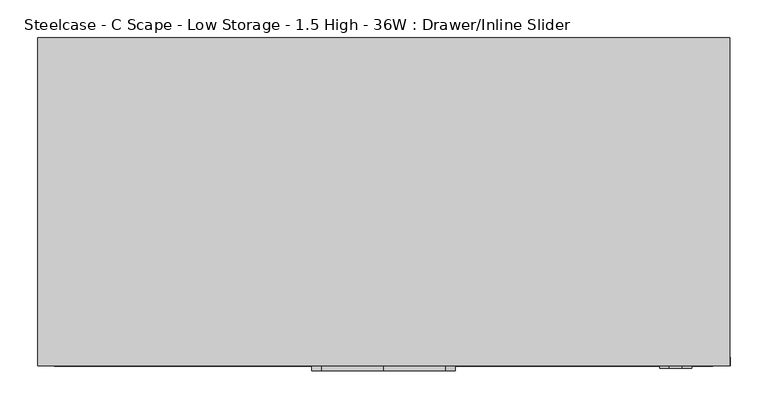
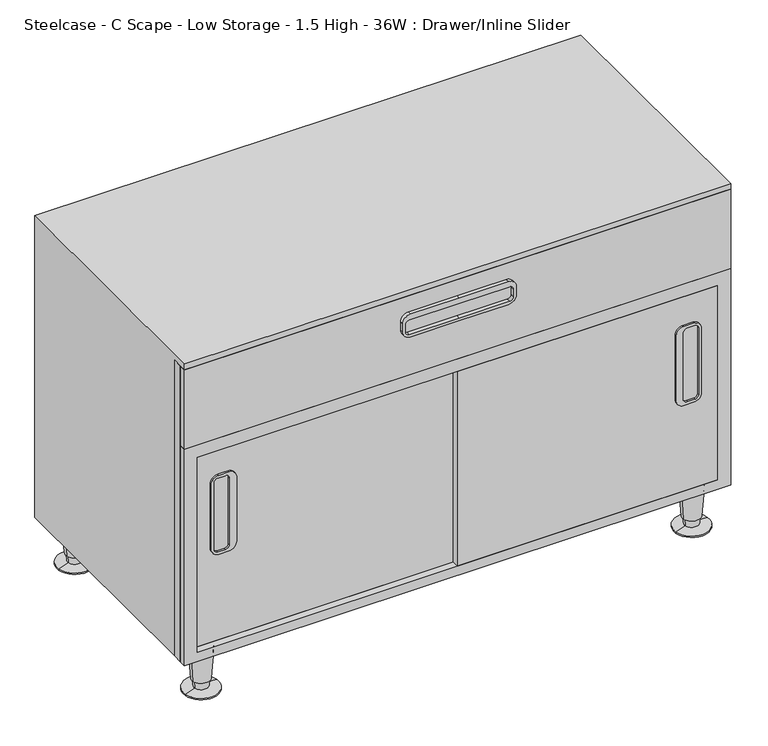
"""IFC4 building model written with IfcOpenShell, lengths in millimetres: furniture geometry, Steelcase - C Scape - Low Storage - 1.5 High - 36W : Drawer/Inline Slider."""

from ifc_helpers import new_model, si_unit, point, frame, frame_2d, origin, place, context, project, spatial, polyline, circle_curve, trimmed, segment, composite_curve, outline, extrude, faceted_brep, source, transform, mapped, element, save
from ifc_brep_helpers import plane_surface, cylinder_surface, revolved_surface, advanced_brep


def steelcase_c_scape_low_storage_1_5_high_36w_drawer_inline_6c725473(model_context):
    return source(origin(), model_context, "Body", "SolidModel", [
        extrude(outline(composite_curve([segment(trimmed(circle_curve(frame_2d((373.5963095, 833.2465039)), 12.7015503), [point((386.2978598, 833.2465039))], [point((373.5963095, 820.5449536))], False, "CARTESIAN"), True, "CONTINUOUS"), segment(polyline([(373.5963095, 820.5449536), (259.2993979, 820.5449536)]), True, "CONTINUOUS"), segment(trimmed(circle_curve(frame_2d((259.2993979, 833.2465039)), 12.7015503), [point((259.2993979, 820.5449536))], [point((246.5978477, 833.2465039))], False, "CARTESIAN"), True, "CONTINUOUS"), segment(polyline([(246.5978477, 833.2465039), (246.5978477, 850.1353895)]), True, "CONTINUOUS"), segment(trimmed(circle_curve(frame_2d((259.2978537, 850.1353895)), 12.7000061), [point((246.5978477, 850.1353895))], [point((259.2978537, 862.8353955))], False, "CARTESIAN"), True, "CONTINUOUS"), segment(polyline([(259.2978537, 862.8353955), (373.6009603, 862.8353955)]), True, "CONTINUOUS"), segment(trimmed(circle_curve(frame_2d((373.6009603, 850.1384961)), 12.6968994), [point((373.6009603, 862.8353955))], [point((386.2978598, 850.1384961))], False, "CARTESIAN"), True, "CONTINUOUS"), segment(polyline([(386.2978598, 850.1384961), (386.2978598, 833.2465039)]), True, "CONTINUOUS")], self_intersect=False), holes=[composite_curve([segment(trimmed(circle_curve(frame_2d((257.7496016, 851.6593335)), 6.3531006), [point((257.7496016, 858.0124341))], [point((251.396501, 851.6593335))], True, "CARTESIAN"), True, "CONTINUOUS"), segment(polyline([(251.396501, 851.6593335), (251.396501, 838.9624341)]), True, "CONTINUOUS"), segment(trimmed(circle_curve(frame_2d((257.7496016, 838.9624341)), 6.3531006), [point((251.396501, 838.9624341))], [point((257.7496016, 832.6093335))], True, "CARTESIAN"), True, "CONTINUOUS"), segment(polyline([(257.7496016, 832.6093335), (375.0913854, 832.6093335)]), True, "CONTINUOUS"), segment(trimmed(circle_curve(frame_2d((375.0913854, 838.9624341)), 6.3531006), [point((375.0913854, 832.6093335))], [point((381.444486, 838.9624341))], True, "CARTESIAN"), True, "CONTINUOUS"), segment(polyline([(381.444486, 838.9624341), (381.444486, 851.6593335)]), True, "CONTINUOUS"), segment(trimmed(circle_curve(frame_2d((375.0913854, 851.6593335)), 6.3531006), [point((381.444486, 851.6593335))], [point((375.0913854, 858.0124341))], True, "CARTESIAN"), True, "CONTINUOUS"), segment(polyline([(375.0913854, 858.0124341), (257.7496016, 858.0124341)]), True, "CONTINUOUS")], self_intersect=False)]), frame((0.0, -436.1182586, 0.0), z_axis=(0.0, 1.0, 0.0), x_axis=(0.0, 0.0, 1.0)), (0.0, 0.0, 1.0), 3.0482586),
        extrude(outline(composite_curve([segment(polyline([(386.2978598, 79.2484961), (386.2978598, 62.3565039)]), True, "CONTINUOUS"), segment(trimmed(circle_curve(frame_2d((373.6009603, 62.3565039)), 12.6968994), [point((386.2978598, 62.3565039))], [point((373.6009603, 49.6596045))], False, "CARTESIAN"), True, "CONTINUOUS"), segment(polyline([(373.6009603, 49.6596045), (259.2978537, 49.6596045)]), True, "CONTINUOUS"), segment(trimmed(circle_curve(frame_2d((259.2978537, 62.3596105)), 12.7000061), [point((259.2978537, 49.6596045))], [point((246.5978477, 62.3596105))], False, "CARTESIAN"), True, "CONTINUOUS"), segment(polyline([(246.5978477, 62.3596105), (246.5978477, 79.2484961)]), True, "CONTINUOUS"), segment(trimmed(circle_curve(frame_2d((259.2993979, 79.2484961)), 12.7015503), [point((246.5978477, 79.2484961))], [point((259.2993979, 91.9500464))], False, "CARTESIAN"), True, "CONTINUOUS"), segment(polyline([(259.2993979, 91.9500464), (373.5963095, 91.9500464)]), True, "CONTINUOUS"), segment(trimmed(circle_curve(frame_2d((373.5963095, 79.2484961)), 12.7015503), [point((373.5963095, 91.9500464))], [point((386.2978598, 79.2484961))], False, "CARTESIAN"), True, "CONTINUOUS")], self_intersect=False), holes=[composite_curve([segment(polyline([(257.7496016, 54.4825659), (375.0913854, 54.4825659)]), True, "CONTINUOUS"), segment(trimmed(circle_curve(frame_2d((375.0913854, 60.8356665)), 6.3531006), [point((375.0913854, 54.4825659))], [point((381.444486, 60.8356665))], True, "CARTESIAN"), True, "CONTINUOUS"), segment(polyline([(381.444486, 60.8356665), (381.444486, 73.5325659)]), True, "CONTINUOUS"), segment(trimmed(circle_curve(frame_2d((375.0913854, 73.5325659)), 6.3531006), [point((381.444486, 73.5325659))], [point((375.0913854, 79.8856665))], True, "CARTESIAN"), True, "CONTINUOUS"), segment(polyline([(375.0913854, 79.8856665), (257.7496016, 79.8856665)]), True, "CONTINUOUS"), segment(trimmed(circle_curve(frame_2d((257.7496016, 73.5325659)), 6.3531006), [point((257.7496016, 79.8856665))], [point((251.396501, 73.5325659))], True, "CARTESIAN"), True, "CONTINUOUS"), segment(polyline([(251.396501, 73.5325659), (251.396501, 60.8356665)]), True, "CONTINUOUS"), segment(trimmed(circle_curve(frame_2d((257.7496016, 60.8356665)), 6.3531006), [point((251.396501, 60.8356665))], [point((257.7496016, 54.4825659))], True, "CARTESIAN"), True, "CONTINUOUS")], self_intersect=False)]), frame((0.0, -424.7213475, 0.0), z_axis=(0.0, 1.0, 0.0), x_axis=(0.0, 0.0, 1.0)), (0.0, 0.0, 1.0), 3.0770066),
        extrude(outline(polyline([(458.7875121, 913.765), (458.7875121, 0.0), (76.2, 0.0), (76.2, 913.765), (458.7875121, 913.765)]), holes=[polyline([(436.8419, 891.1617285), (92.7100024, 891.1617285), (92.7100024, 21.3382324), (436.8419, 21.3382324), (436.8419, 891.1617285)])]), frame((0.0, -433.07, 0.0), z_axis=(0.0, 1.0, 0.0), x_axis=(0.0, 0.0, 1.0)), (0.0, 0.0, 1.0), 11.4256592),
        extrude(outline(polyline([(76.2, 0.0), (76.2, 913.13), (599.44, 913.13), (599.44, 0.0), (76.2, 0.0)]), holes=[polyline([(458.7875121, 891.1617285), (458.7875121, 21.3382324), (582.93, 21.3382324), (582.93, 891.1617285), (458.7875121, 891.1617285)]), polyline([(92.7100024, 891.1617285), (92.7100024, 21.3382324), (436.8419, 21.3382324), (436.8419, 891.1617285), (92.7100024, 891.1617285)])]), frame((0.0, -421.6443408, 0.0), z_axis=(0.0, 1.0, 0.0), x_axis=(0.0, 0.0, 1.0)), (0.0, 0.0, 1.0), 17.2762904),
        extrude(outline(composite_curve([segment(trimmed(circle_curve(frame_2d((558.165, 374.0147442)), 12.7), [point((570.865, 374.0147442))], [point((558.165, 361.3147442))], False, "CARTESIAN"), True, "CONTINUOUS"), segment(polyline([(558.165, 361.3147442), (543.5600291, 361.3147442)]), True, "CONTINUOUS"), segment(trimmed(circle_curve(frame_2d((543.5600291, 374.0147442)), 12.7), [point((543.5600291, 361.3147442))], [point((530.8600291, 374.0147442))], False, "CARTESIAN"), True, "CONTINUOUS"), segment(polyline([(530.8600291, 374.0147442), (530.8600291, 456.2475), (530.8600291, 538.4802558)]), True, "CONTINUOUS"), segment(trimmed(circle_curve(frame_2d((543.5600291, 538.4802558)), 12.7), [point((530.8600291, 538.4802558))], [point((543.5600291, 551.1802558))], False, "CARTESIAN"), True, "CONTINUOUS"), segment(polyline([(543.5600291, 551.1802558), (558.165, 551.1802558)]), True, "CONTINUOUS"), segment(trimmed(circle_curve(frame_2d((558.165, 538.4802558)), 12.7), [point((558.165, 551.1802558))], [point((570.865, 538.4802558))], False, "CARTESIAN"), True, "CONTINUOUS"), segment(polyline([(570.865, 538.4802558), (570.865, 456.2475), (570.865, 374.0147442)]), True, "CONTINUOUS")], self_intersect=False), holes=[composite_curve([segment(trimmed(circle_curve(frame_2d((554.7360184, 372.4923565)), 6.35), [point((554.7360184, 366.1423565))], [point((561.0860184, 372.4923565))], True, "CARTESIAN"), True, "CONTINUOUS"), segment(polyline([(561.0860184, 372.4923565), (561.0860184, 456.2475), (561.0860184, 540.0026435)]), True, "CONTINUOUS"), segment(trimmed(circle_curve(frame_2d((554.7360184, 540.0026435)), 6.35), [point((561.0860184, 540.0026435))], [point((554.7360184, 546.3526435))], True, "CARTESIAN"), True, "CONTINUOUS"), segment(polyline([(554.7360184, 546.3526435), (542.0360063, 546.3526435)]), True, "CONTINUOUS"), segment(trimmed(circle_curve(frame_2d((542.0360063, 540.0026435)), 6.35), [point((542.0360063, 546.3526435))], [point((535.6860063, 540.0026435))], True, "CARTESIAN"), True, "CONTINUOUS"), segment(polyline([(535.6860063, 540.0026435), (535.6860063, 456.2475), (535.6860063, 372.4923565)]), True, "CONTINUOUS"), segment(trimmed(circle_curve(frame_2d((542.0360063, 372.4923565)), 6.35), [point((535.6860063, 372.4923565))], [point((542.0360063, 366.1423565))], True, "CARTESIAN"), True, "CONTINUOUS"), segment(polyline([(542.0360063, 366.1423565), (554.7360184, 366.1423565)]), True, "CONTINUOUS")], self_intersect=False)]), frame((0.0, -439.42, 0.0), z_axis=(0.0, 1.0, 0.0), x_axis=(0.0, 0.0, 1.0)), (0.0, 0.0, 1.0), 6.35),
        advanced_brep(
        [(885.8598695, -31.5218435, 76.2), (848.1981305, -37.2840847, 76.2), (867.029, -34.4029641, 76.2), (881.9095214, -32.1262463, 19.05), (852.1484786, -36.6796819, 19.05), (879.4799345, -32.4979728, 19.05), (854.5780655, -36.3079555, 19.05), (878.791165, -32.6033544, 5.7545598), (855.266835, -36.2025738, 5.7545598), (896.1400485, -29.9489775, 2.5119506), (837.9179515, -38.8569507, 2.5119506), (896.1400485, -29.9489775, 0.0), (837.9179515, -38.8569507, 0.0), (867.029, -34.4029641, 0.0)],
        [
            (0, 1, circle_curve(frame((867.029, -34.4029641, 76.2), z_axis=(0.0, 0.0, 1.0), x_axis=(0.0, -1.0, 0.0)), 19.05)),
            (1, 2),
            (2, 0),
            (1, 0, circle_curve(frame((867.029, -34.4029641, 76.2), z_axis=(0.0, 0.0, 1.0), x_axis=(0.0, -1.0, 0.0)), 19.05)),
            (3, 4, circle_curve(frame((867.029, -34.4029641, 19.05), z_axis=(0.0, 0.0, 1.0), x_axis=(0.0, -1.0, 0.0)), 15.0536827)),
            (4, 1),
            (0, 3),
            (4, 3, circle_curve(frame((867.029, -34.4029641, 19.05), z_axis=(0.0, 0.0, 1.0), x_axis=(0.0, -1.0, 0.0)), 15.0536827)),
            (5, 6, circle_curve(frame((867.029, -34.4029641, 19.05), z_axis=(0.0, 0.0, 1.0), x_axis=(0.0, -1.0, 0.0)), 12.5958232)),
            (6, 4),
            (3, 5),
            (6, 5, circle_curve(frame((867.029, -34.4029641, 19.05), z_axis=(0.0, 0.0, 1.0), x_axis=(0.0, -1.0, 0.0)), 12.5958232)),
            (7, 8, circle_curve(frame((867.029, -34.4029641, 5.7545598), z_axis=(0.0, 0.0, 1.0), x_axis=(0.0, -1.0, 0.0)), 11.8990387)),
            (8, 6),
            (5, 7),
            (8, 7, circle_curve(frame((867.029, -34.4029641, 5.7545598), z_axis=(0.0, 0.0, 1.0), x_axis=(0.0, -1.0, 0.0)), 11.8990387)),
            (9, 10, circle_curve(frame((867.029, -34.4029641, 2.5119506), z_axis=(0.0, 0.0, 1.0), x_axis=(0.0, -1.0, 0.0)), 29.4498071)),
            (10, 8),
            (7, 9),
            (10, 9, circle_curve(frame((867.029, -34.4029641, 2.5119506), z_axis=(0.0, 0.0, 1.0), x_axis=(0.0, -1.0, 0.0)), 29.4498071)),
            (11, 12, circle_curve(frame((867.029, -34.4029641, 0.0), z_axis=(0.0, 0.0, 1.0), x_axis=(0.0, -1.0, 0.0)), 29.4498071)),
            (12, 10),
            (9, 11),
            (12, 11, circle_curve(frame((867.029, -34.4029641, 0.0), z_axis=(0.0, 0.0, 1.0), x_axis=(0.0, -1.0, 0.0)), 29.4498071)),
            (13, 12),
            (11, 13),
        ],
        [
            plane_surface(frame((867.029, -34.4029641, 76.2), z_axis=(0.0, 0.0, 1.0), x_axis=(0.0, -1.0, 0.0))),
            revolved_surface(polyline([(867.029, -53.4529641, 76.2), (867.029, -49.4566468, 19.05)]), (867.029, -34.4029641, 25.4), (0.0, 0.0, -1.0)),
            plane_surface(frame((867.029, -34.4029641, 19.05), z_axis=(0.0, 0.0, -1.0), x_axis=(0.0, -1.0, 0.0))),
            revolved_surface(polyline([(867.029, -46.9987873, 19.05), (867.029, -46.3020028, 5.7545598)]), (867.029, -34.4029641, 25.4), (0.0, 0.0, -1.0)),
            revolved_surface(polyline([(867.029, -46.3020028, 5.7545598), (867.029, -63.8527712, 2.5119506)]), (867.029, -34.4029641, 25.4), (0.0, 0.0, -1.0)),
            cylinder_surface(frame((867.029, -34.4029641, 25.4), z_axis=(0.0, 0.0, -1.0), x_axis=(0.0, -1.0, 0.0)), 29.4498071),
            plane_surface(frame((867.029, -34.4029641, 0.0), z_axis=(0.0, 0.0, -1.0), x_axis=(0.0, -1.0, 0.0))),
        ],
        [
            (0, [[1, 2, 3]]),
            (0, [[4, -3, -2]]),
            (1, [[5, 6, -1, 7]]),
            (1, [[8, -7, -4, -6]]),
            (2, [[9, 10, -5, 11]]),
            (2, [[12, -11, -8, -10]]),
            (3, [[13, 14, -9, 15]]),
            (3, [[16, -15, -12, -14]]),
            (4, [[17, 18, -13, 19]]),
            (4, [[20, -19, -16, -18]]),
            (5, [[21, 22, -17, 23]]),
            (5, [[24, -23, -20, -22]]),
            (6, [[25, -21, 26]]),
            (6, [[-26, -24, -25]]),
        ],
    ),
        advanced_brep(
        [(885.8598695, -397.1702762, 76.2), (848.1981305, -402.9325174, 76.2), (867.029, -400.0513968, 76.2), (881.9095214, -397.774679, 19.05), (852.1484786, -402.3281146, 19.05), (879.4799345, -398.1464055, 19.05), (854.5780655, -401.9563882, 19.05), (878.791165, -398.2517871, 5.7545598), (855.266835, -401.8510065, 5.7545598), (896.1400485, -395.5974102, 2.5119506), (837.9179515, -404.5053834, 2.5119506), (896.1400485, -395.5974102, 0.0), (837.9179515, -404.5053834, 0.0), (867.029, -400.0513968, 0.0)],
        [
            (0, 1, circle_curve(frame((867.029, -400.0513968, 76.2), z_axis=(0.0, 0.0, 1.0), x_axis=(0.0, -1.0, 0.0)), 19.05)),
            (1, 2),
            (2, 0),
            (1, 0, circle_curve(frame((867.029, -400.0513968, 76.2), z_axis=(0.0, 0.0, 1.0), x_axis=(0.0, -1.0, 0.0)), 19.05)),
            (3, 4, circle_curve(frame((867.029, -400.0513968, 19.05), z_axis=(0.0, 0.0, 1.0), x_axis=(0.0, -1.0, 0.0)), 15.0536827)),
            (4, 1),
            (0, 3),
            (4, 3, circle_curve(frame((867.029, -400.0513968, 19.05), z_axis=(0.0, 0.0, 1.0), x_axis=(0.0, -1.0, 0.0)), 15.0536827)),
            (5, 6, circle_curve(frame((867.029, -400.0513968, 19.05), z_axis=(0.0, 0.0, 1.0), x_axis=(0.0, -1.0, 0.0)), 12.5958232)),
            (6, 4),
            (3, 5),
            (6, 5, circle_curve(frame((867.029, -400.0513968, 19.05), z_axis=(0.0, 0.0, 1.0), x_axis=(0.0, -1.0, 0.0)), 12.5958232)),
            (7, 8, circle_curve(frame((867.029, -400.0513968, 5.7545598), z_axis=(0.0, 0.0, 1.0), x_axis=(0.0, -1.0, 0.0)), 11.8990387)),
            (8, 6),
            (5, 7),
            (8, 7, circle_curve(frame((867.029, -400.0513968, 5.7545598), z_axis=(0.0, 0.0, 1.0), x_axis=(0.0, -1.0, 0.0)), 11.8990387)),
            (9, 10, circle_curve(frame((867.029, -400.0513968, 2.5119506), z_axis=(0.0, 0.0, 1.0), x_axis=(0.0, -1.0, 0.0)), 29.4498071)),
            (10, 8),
            (7, 9),
            (10, 9, circle_curve(frame((867.029, -400.0513968, 2.5119506), z_axis=(0.0, 0.0, 1.0), x_axis=(0.0, -1.0, 0.0)), 29.4498071)),
            (11, 12, circle_curve(frame((867.029, -400.0513968, 0.0), z_axis=(0.0, 0.0, 1.0), x_axis=(0.0, -1.0, 0.0)), 29.4498071)),
            (12, 10),
            (9, 11),
            (12, 11, circle_curve(frame((867.029, -400.0513968, 0.0), z_axis=(0.0, 0.0, 1.0), x_axis=(0.0, -1.0, 0.0)), 29.4498071)),
            (13, 12),
            (11, 13),
        ],
        [
            plane_surface(frame((867.029, -400.0513968, 76.2), z_axis=(0.0, 0.0, 1.0), x_axis=(0.0, -1.0, 0.0))),
            revolved_surface(polyline([(867.029, -419.1013968, 76.2), (867.029, -415.1050795, 19.05)]), (867.029, -400.0513968, 25.4), (0.0, 0.0, -1.0)),
            plane_surface(frame((867.029, -400.0513968, 19.05), z_axis=(0.0, 0.0, -1.0), x_axis=(0.0, -1.0, 0.0))),
            revolved_surface(polyline([(867.029, -412.64722, 19.05), (867.029, -411.9504355, 5.7545598)]), (867.029, -400.0513968, 25.4), (0.0, 0.0, -1.0)),
            revolved_surface(polyline([(867.029, -411.9504355, 5.7545598), (867.029, -429.5012039, 2.5119506)]), (867.029, -400.0513968, 25.4), (0.0, 0.0, -1.0)),
            cylinder_surface(frame((867.029, -400.0513968, 25.4), z_axis=(0.0, 0.0, -1.0), x_axis=(0.0, -1.0, 0.0)), 29.4498071),
            plane_surface(frame((867.029, -400.0513968, 0.0), z_axis=(0.0, 0.0, -1.0), x_axis=(0.0, -1.0, 0.0))),
        ],
        [
            (0, [[1, 2, 3]]),
            (0, [[4, -3, -2]]),
            (1, [[5, 6, -1, 7]]),
            (1, [[8, -7, -4, -6]]),
            (2, [[9, 10, -5, 11]]),
            (2, [[12, -11, -8, -10]]),
            (3, [[13, 14, -9, 15]]),
            (3, [[16, -15, -12, -14]]),
            (4, [[17, 18, -13, 19]]),
            (4, [[20, -19, -16, -18]]),
            (5, [[21, 22, -17, 23]]),
            (5, [[24, -23, -20, -22]]),
            (6, [[25, -21, 26]]),
            (6, [[-26, -24, -25]]),
        ],
    ),
        advanced_brep(
        [(65.5422821, -397.1702762, 76.2), (27.8805432, -402.9325174, 76.2), (46.7114126, -400.0513968, 76.2), (61.5919341, -397.774679, 19.05), (31.8308912, -402.3281146, 19.05), (59.1623471, -398.1464055, 19.05), (34.2604781, -401.9563882, 19.05), (58.4735776, -398.2517871, 5.7545598), (34.9492476, -401.8510065, 5.7545598), (75.8224611, -395.5974102, 2.5119506), (17.6003641, -404.5053834, 2.5119506), (75.8224611, -395.5974102, 0.0), (17.6003641, -404.5053834, 0.0), (46.7114126, -400.0513968, 0.0)],
        [
            (0, 1, circle_curve(frame((46.7114126, -400.0513968, 76.2), z_axis=(0.0, 0.0, 1.0), x_axis=(0.0, -1.0, 0.0)), 19.05)),
            (1, 2),
            (2, 0),
            (1, 0, circle_curve(frame((46.7114126, -400.0513968, 76.2), z_axis=(0.0, 0.0, 1.0), x_axis=(0.0, -1.0, 0.0)), 19.05)),
            (3, 4, circle_curve(frame((46.7114126, -400.0513968, 19.05), z_axis=(0.0, 0.0, 1.0), x_axis=(0.0, -1.0, 0.0)), 15.0536827)),
            (4, 1),
            (0, 3),
            (4, 3, circle_curve(frame((46.7114126, -400.0513968, 19.05), z_axis=(0.0, 0.0, 1.0), x_axis=(0.0, -1.0, 0.0)), 15.0536827)),
            (5, 6, circle_curve(frame((46.7114126, -400.0513968, 19.05), z_axis=(0.0, 0.0, 1.0), x_axis=(0.0, -1.0, 0.0)), 12.5958232)),
            (6, 4),
            (3, 5),
            (6, 5, circle_curve(frame((46.7114126, -400.0513968, 19.05), z_axis=(0.0, 0.0, 1.0), x_axis=(0.0, -1.0, 0.0)), 12.5958232)),
            (7, 8, circle_curve(frame((46.7114126, -400.0513968, 5.7545598), z_axis=(0.0, 0.0, 1.0), x_axis=(0.0, -1.0, 0.0)), 11.8990387)),
            (8, 6),
            (5, 7),
            (8, 7, circle_curve(frame((46.7114126, -400.0513968, 5.7545598), z_axis=(0.0, 0.0, 1.0), x_axis=(0.0, -1.0, 0.0)), 11.8990387)),
            (9, 10, circle_curve(frame((46.7114126, -400.0513968, 2.5119506), z_axis=(0.0, 0.0, 1.0), x_axis=(0.0, -1.0, 0.0)), 29.4498071)),
            (10, 8),
            (7, 9),
            (10, 9, circle_curve(frame((46.7114126, -400.0513968, 2.5119506), z_axis=(0.0, 0.0, 1.0), x_axis=(0.0, -1.0, 0.0)), 29.4498071)),
            (11, 12, circle_curve(frame((46.7114126, -400.0513968, 0.0), z_axis=(0.0, 0.0, 1.0), x_axis=(0.0, -1.0, 0.0)), 29.4498071)),
            (12, 10),
            (9, 11),
            (12, 11, circle_curve(frame((46.7114126, -400.0513968, 0.0), z_axis=(0.0, 0.0, 1.0), x_axis=(0.0, -1.0, 0.0)), 29.4498071)),
            (13, 12),
            (11, 13),
        ],
        [
            plane_surface(frame((46.7114126, -400.0513968, 76.2), z_axis=(0.0, 0.0, 1.0), x_axis=(0.0, -1.0, 0.0))),
            revolved_surface(polyline([(46.7114126, -419.1013968, 76.2), (46.7114126, -415.1050795, 19.05)]), (46.7114126, -400.0513968, 25.4), (0.0, 0.0, -1.0)),
            plane_surface(frame((46.7114126, -400.0513968, 19.05), z_axis=(0.0, 0.0, -1.0), x_axis=(0.0, -1.0, 0.0))),
            revolved_surface(polyline([(46.7114126, -412.64722, 19.05), (46.7114126, -411.9504355, 5.7545598)]), (46.7114126, -400.0513968, 25.4), (0.0, 0.0, -1.0)),
            revolved_surface(polyline([(46.7114126, -411.9504355, 5.7545598), (46.7114126, -429.5012039, 2.5119506)]), (46.7114126, -400.0513968, 25.4), (0.0, 0.0, -1.0)),
            cylinder_surface(frame((46.7114126, -400.0513968, 25.4), z_axis=(0.0, 0.0, -1.0), x_axis=(0.0, -1.0, 0.0)), 29.4498071),
            plane_surface(frame((46.7114126, -400.0513968, 0.0), z_axis=(0.0, 0.0, -1.0), x_axis=(0.0, -1.0, 0.0))),
        ],
        [
            (0, [[1, 2, 3]]),
            (0, [[4, -3, -2]]),
            (1, [[5, 6, -1, 7]]),
            (1, [[8, -7, -4, -6]]),
            (2, [[9, 10, -5, 11]]),
            (2, [[12, -11, -8, -10]]),
            (3, [[13, 14, -9, 15]]),
            (3, [[16, -15, -12, -14]]),
            (4, [[17, 18, -13, 19]]),
            (4, [[20, -19, -16, -18]]),
            (5, [[21, 22, -17, 23]]),
            (5, [[24, -23, -20, -22]]),
            (6, [[25, -21, 26]]),
            (6, [[-26, -24, -25]]),
        ],
    ),
        advanced_brep(
        [(65.5422821, -31.5218435, 76.2), (27.8805432, -37.2840847, 76.2), (46.7114126, -34.4029641, 76.2), (61.5919341, -32.1262463, 19.05), (31.8308912, -36.6796819, 19.05), (59.1623471, -32.4979728, 19.05), (34.2604781, -36.3079555, 19.05), (58.4735776, -32.6033544, 5.7545598), (34.9492476, -36.2025738, 5.7545598), (75.8224611, -29.9489775, 2.5119506), (17.6003641, -38.8569507, 2.5119506), (75.8224611, -29.9489775, 0.0), (17.6003641, -38.8569507, 0.0), (46.7114126, -34.4029641, 0.0)],
        [
            (0, 1, circle_curve(frame((46.7114126, -34.4029641, 76.2), z_axis=(0.0, 0.0, 1.0), x_axis=(0.0, -1.0, 0.0)), 19.05)),
            (1, 2),
            (2, 0),
            (1, 0, circle_curve(frame((46.7114126, -34.4029641, 76.2), z_axis=(0.0, 0.0, 1.0), x_axis=(0.0, -1.0, 0.0)), 19.05)),
            (3, 4, circle_curve(frame((46.7114126, -34.4029641, 19.05), z_axis=(0.0, 0.0, 1.0), x_axis=(0.0, -1.0, 0.0)), 15.0536827)),
            (4, 1),
            (0, 3),
            (4, 3, circle_curve(frame((46.7114126, -34.4029641, 19.05), z_axis=(0.0, 0.0, 1.0), x_axis=(0.0, -1.0, 0.0)), 15.0536827)),
            (5, 6, circle_curve(frame((46.7114126, -34.4029641, 19.05), z_axis=(0.0, 0.0, 1.0), x_axis=(0.0, -1.0, 0.0)), 12.5958232)),
            (6, 4),
            (3, 5),
            (6, 5, circle_curve(frame((46.7114126, -34.4029641, 19.05), z_axis=(0.0, 0.0, 1.0), x_axis=(0.0, -1.0, 0.0)), 12.5958232)),
            (7, 8, circle_curve(frame((46.7114126, -34.4029641, 5.7545598), z_axis=(0.0, 0.0, 1.0), x_axis=(0.0, -1.0, 0.0)), 11.8990387)),
            (8, 6),
            (5, 7),
            (8, 7, circle_curve(frame((46.7114126, -34.4029641, 5.7545598), z_axis=(0.0, 0.0, 1.0), x_axis=(0.0, -1.0, 0.0)), 11.8990387)),
            (9, 10, circle_curve(frame((46.7114126, -34.4029641, 2.5119506), z_axis=(0.0, 0.0, 1.0), x_axis=(0.0, -1.0, 0.0)), 29.4498071)),
            (10, 8),
            (7, 9),
            (10, 9, circle_curve(frame((46.7114126, -34.4029641, 2.5119506), z_axis=(0.0, 0.0, 1.0), x_axis=(0.0, -1.0, 0.0)), 29.4498071)),
            (11, 12, circle_curve(frame((46.7114126, -34.4029641, 0.0), z_axis=(0.0, 0.0, 1.0), x_axis=(0.0, -1.0, 0.0)), 29.4498071)),
            (12, 10),
            (9, 11),
            (12, 11, circle_curve(frame((46.7114126, -34.4029641, 0.0), z_axis=(0.0, 0.0, 1.0), x_axis=(0.0, -1.0, 0.0)), 29.4498071)),
            (13, 12),
            (11, 13),
        ],
        [
            plane_surface(frame((46.7114126, -34.4029641, 76.2), z_axis=(0.0, 0.0, 1.0), x_axis=(0.0, -1.0, 0.0))),
            revolved_surface(polyline([(46.7114126, -53.4529641, 76.2), (46.7114126, -49.4566468, 19.05)]), (46.7114126, -34.4029641, 25.4), (0.0, 0.0, -1.0)),
            plane_surface(frame((46.7114126, -34.4029641, 19.05), z_axis=(0.0, 0.0, -1.0), x_axis=(0.0, -1.0, 0.0))),
            revolved_surface(polyline([(46.7114126, -46.9987873, 19.05), (46.7114126, -46.3020028, 5.7545598)]), (46.7114126, -34.4029641, 25.4), (0.0, 0.0, -1.0)),
            revolved_surface(polyline([(46.7114126, -46.3020028, 5.7545598), (46.7114126, -63.8527712, 2.5119506)]), (46.7114126, -34.4029641, 25.4), (0.0, 0.0, -1.0)),
            cylinder_surface(frame((46.7114126, -34.4029641, 25.4), z_axis=(0.0, 0.0, -1.0), x_axis=(0.0, -1.0, 0.0)), 29.4498071),
            plane_surface(frame((46.7114126, -34.4029641, 0.0), z_axis=(0.0, 0.0, -1.0), x_axis=(0.0, -1.0, 0.0))),
        ],
        [
            (0, [[1, 2, 3]]),
            (0, [[4, -3, -2]]),
            (1, [[5, 6, -1, 7]]),
            (1, [[8, -7, -4, -6]]),
            (2, [[9, 10, -5, 11]]),
            (2, [[12, -11, -8, -10]]),
            (3, [[13, 14, -9, 15]]),
            (3, [[16, -15, -12, -14]]),
            (4, [[17, 18, -13, 19]]),
            (4, [[20, -19, -16, -18]]),
            (5, [[21, 22, -17, 23]]),
            (5, [[24, -23, -20, -22]]),
            (6, [[25, -21, 26]]),
            (6, [[-26, -24, -25]]),
        ],
    ),
        extrude(outline(polyline([(913.13, -421.6443408), (913.13, -433.07), (0.0, -433.07), (0.0, -421.6443408), (913.13, -421.6443408)])), frame((0.0, 0.0, 458.7875121), z_axis=(0.0, 0.0, 1.0), x_axis=(1.0, 0.0, 0.0)), (0.0, 0.0, 1.0), 140.6524879),
        faceted_brep([(0.0, 0.0, 609.6), (913.13, 0.0, 609.6), (913.13, 0.0, 76.2), (0.0, 0.0, 76.2), (0.0, -433.07, 609.6), (0.0, -404.3680504, 76.2), (0.0, -404.3680504, 599.44), (0.0, -433.07, 599.44), (21.3382324, -404.3680504, 599.44), (913.13, -404.3680504, 76.2), (913.13, -404.3680504, 599.44), (891.1617285, -404.3680504, 599.44), (891.1617285, -404.3680504, 458.7875121), (21.3382324, -404.3680504, 458.7875121), (891.1617285, -404.3680504, 450.8499879), (891.1617285, -404.3680504, 92.7100024), (21.3382324, -404.3680504, 92.7100024), (21.3382324, -404.3680504, 450.8499879), (21.3382324, -9.525, 599.44), (21.3382324, -9.525, 458.7875121), (21.3382324, -9.525, 92.7100024), (21.3382324, -9.525, 450.8499879), (891.1617285, -9.525, 599.44), (891.1617285, -9.525, 458.7875121), (891.1617285, -9.525, 92.7100024), (891.1617285, -9.525, 450.8499879), (913.13, -433.07, 609.6), (913.13, -433.07, 599.44)], [[[0, 1, 2, 3]], [[4, 0, 3, 5, 6, 7]], [[8, 6, 5, 9, 10, 11, 12, 13], [14, 15, 16, 17]], [[18, 8, 13, 19]], [[17, 16, 20, 21]], [[22, 18, 19, 23]], [[21, 20, 24, 25]], [[11, 22, 23, 12]], [[25, 24, 15, 14]], [[2, 1, 26, 27, 10, 9]], [[1, 0, 4, 26]], [[27, 7, 6, 8, 18, 22, 11, 10]], [[26, 4, 7, 27]], [[13, 12, 23, 19]], [[14, 17, 21, 25]], [[16, 15, 24, 20]], [[2, 9, 5, 3]]]),
        extrude(outline(polyline([(456.2475, -421.6443408), (891.1617285, -421.6443408), (891.1617285, -433.07), (456.2475, -433.07), (456.2475, -421.6443408)])), frame((0.0, 0.0, 92.7100024), z_axis=(0.0, 0.0, 1.0), x_axis=(1.0, 0.0, 0.0)), (0.0, 0.0, 1.0), 344.1318976),
        extrude(outline(polyline([(456.2475, -415.2912402), (456.2475, -421.6443408), (21.3382324, -421.6443408), (21.3382324, -415.2912402), (456.2475, -415.2912402)])), frame((0.0, 0.0, 92.7100024), z_axis=(0.0, 0.0, 1.0), x_axis=(1.0, 0.0, 0.0)), (0.0, 0.0, 1.0), 344.1318976),
    ])


if __name__ == "__main__":
    model = new_model("IFC4")
    model_context = context("Model", 3, world=origin())
    ifc_project = project(units=[si_unit("LENGTHUNIT", "METRE", prefix="MILLI")], contexts=[model_context])
    site = spatial("IfcSite", under=ifc_project)
    building = spatial("IfcBuilding", under=site)
    placement = place(None, origin())
    steelcase_c_scape_low_storage_1_5_high_36w_drawer_inline_shape = steelcase_c_scape_low_storage_1_5_high_36w_drawer_inline_6c725473(model_context)
    element("IfcFurniture", 1, ObjectType="Steelcase - C Scape - Low Storage - 1.5 High - 36W : Drawer/Inline Slider", at=placement, inside=building, context=model_context, shape_type="MappedRepresentation", body=[
        mapped(steelcase_c_scape_low_storage_1_5_high_36w_drawer_inline_shape, transform((0.0, 0.0, 0.0), x_axis=(1.0, 0.0, 0.0), y_axis=(0.0, 1.0, 0.0), z_axis=(0.0, 0.0, 1.0))),
    ])
    save(model, "model.ifc")
